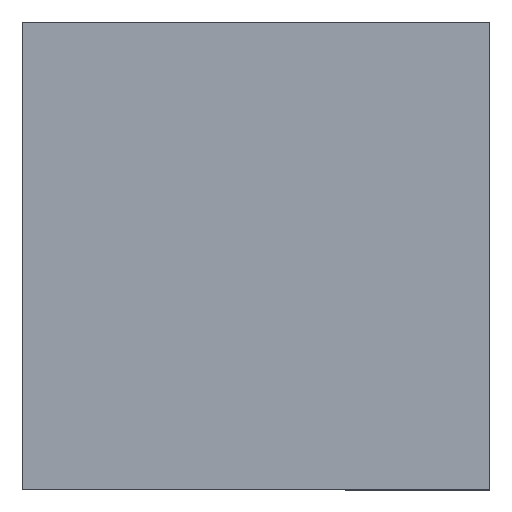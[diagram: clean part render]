
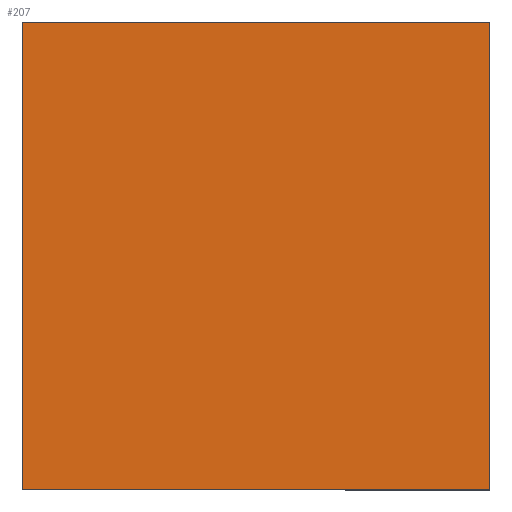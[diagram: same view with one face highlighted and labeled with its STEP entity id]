
A CAD part, top view. The second image highlights one B-rep face of the part: STEP entity #207.
In plain terms, the highlighted planar face has unit normal (0, 0, 1).
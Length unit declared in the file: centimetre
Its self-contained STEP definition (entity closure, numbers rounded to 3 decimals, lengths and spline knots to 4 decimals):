
#13 = VECTOR ( 'NONE', #82, 100. ) ;
#21 = CARTESIAN_POINT ( 'NONE',  ( 1000., 1000., 1000. ) ) ;
#30 = EDGE_CURVE ( 'NONE', #141, #272, #294, .T. ) ;
#40 = EDGE_CURVE ( 'NONE', #272, #428, #345, .T. ) ;
#67 = EDGE_CURVE ( 'NONE', #428, #418, #378, .T. ) ;
#69 = CARTESIAN_POINT ( 'NONE',  ( 0., 1000., 1000. ) ) ;
#79 = DIRECTION ( 'NONE',  ( 0., 0., 1. ) ) ;
#82 = DIRECTION ( 'NONE',  ( -1., 0., 0. ) ) ;
#96 = CARTESIAN_POINT ( 'NONE',  ( 0., 1000., 1000. ) ) ;
#141 = VERTEX_POINT ( 'NONE', #69 ) ;
#158 = DIRECTION ( 'NONE',  ( 1., 0., 0. ) ) ;
#165 = ORIENTED_EDGE ( 'NONE', *, *, #40, .T. ) ;
#192 = CARTESIAN_POINT ( 'NONE',  ( 1000., 1000., 1000. ) ) ;
#207 = ADVANCED_FACE ( 'NONE', ( #460 ), #275, .T. ) ;
#209 = CARTESIAN_POINT ( 'NONE',  ( 0., 0., 1000. ) ) ;
#234 = EDGE_CURVE ( 'NONE', #418, #141, #286, .T. ) ;
#239 = CARTESIAN_POINT ( 'NONE',  ( 0., 1000., 1000. ) ) ;
#247 = AXIS2_PLACEMENT_3D ( 'NONE', #209, #79, #158 ) ;
#258 = VECTOR ( 'NONE', #305, 100. ) ;
#264 = EDGE_LOOP ( 'NONE', ( #300, #165, #462, #291 ) ) ;
#272 = VERTEX_POINT ( 'NONE', #328 ) ;
#275 = PLANE ( 'NONE',  #247 ) ;
#276 = CARTESIAN_POINT ( 'NONE',  ( 1000., 0., 1000. ) ) ;
#286 = LINE ( 'NONE', #239, #13 ) ;
#291 = ORIENTED_EDGE ( 'NONE', *, *, #234, .T. ) ;
#294 = LINE ( 'NONE', #96, #319 ) ;
#297 = VECTOR ( 'NONE', #451, 100. ) ;
#300 = ORIENTED_EDGE ( 'NONE', *, *, #30, .T. ) ;
#305 = DIRECTION ( 'NONE',  ( 1., 0., 0. ) ) ;
#319 = VECTOR ( 'NONE', #406, 100. ) ;
#328 = CARTESIAN_POINT ( 'NONE',  ( 0., 0., 1000. ) ) ;
#343 = CARTESIAN_POINT ( 'NONE',  ( 0., 0., 1000. ) ) ;
#345 = LINE ( 'NONE', #343, #258 ) ;
#378 = LINE ( 'NONE', #192, #297 ) ;
#406 = DIRECTION ( 'NONE',  ( 0., -1., 0. ) ) ;
#418 = VERTEX_POINT ( 'NONE', #21 ) ;
#428 = VERTEX_POINT ( 'NONE', #276 ) ;
#451 = DIRECTION ( 'NONE',  ( 0., 1., 0. ) ) ;
#460 = FACE_OUTER_BOUND ( 'NONE', #264, .T. ) ;
#462 = ORIENTED_EDGE ( 'NONE', *, *, #67, .T. ) ;
